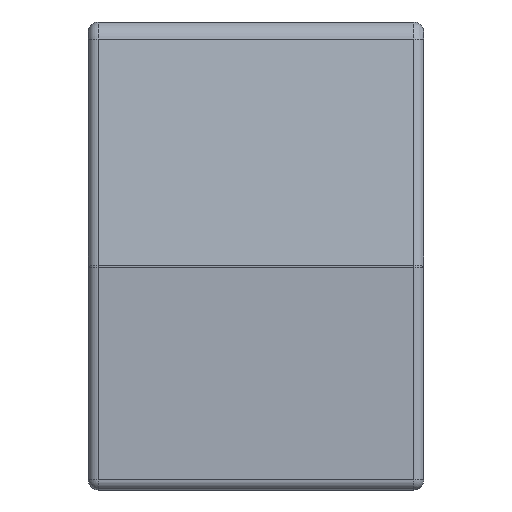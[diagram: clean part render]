
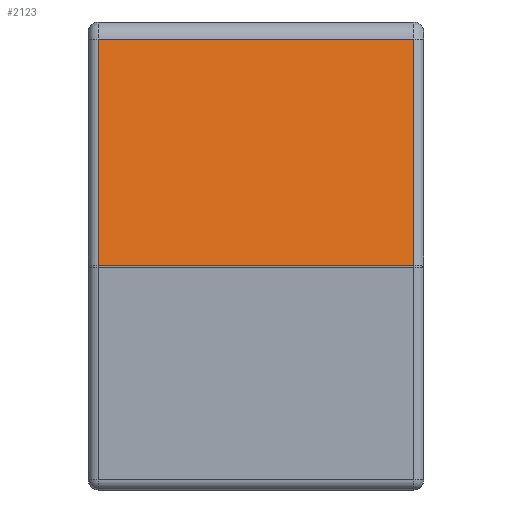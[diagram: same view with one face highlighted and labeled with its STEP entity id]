
A CAD part, left-side view. The second image highlights one B-rep face of the part: STEP entity #2123.
In plain terms, the highlighted planar face has unit normal (-0.986, 0, 0.164).
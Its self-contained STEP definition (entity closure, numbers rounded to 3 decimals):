
#611=DIRECTION('',(0.164,0.,0.986));
#612=VECTOR('',#611,11.277);
#613=CARTESIAN_POINT('',(-37.142,7.75,-6.959));
#614=LINE('',#613,#612);
#615=DIRECTION('',(0.,-1.,0.));
#616=VECTOR('',#615,15.5);
#617=CARTESIAN_POINT('',(-35.288,7.75,4.164));
#618=LINE('',#617,#616);
#619=DIRECTION('',(-0.164,0.,-0.986));
#620=VECTOR('',#619,11.277);
#621=CARTESIAN_POINT('',(-35.288,-7.75,4.164));
#622=LINE('',#621,#620);
#623=DIRECTION('',(0.,1.,0.));
#624=VECTOR('',#623,15.5);
#625=CARTESIAN_POINT('',(-37.142,-7.75,-6.959));
#626=LINE('',#625,#624);
#1143=CARTESIAN_POINT('',(-35.288,7.75,4.164));
#1144=VERTEX_POINT('',#1143);
#1147=CARTESIAN_POINT('',(-37.142,7.75,-6.959));
#1148=VERTEX_POINT('',#1147);
#1179=CARTESIAN_POINT('',(-35.288,-7.75,4.164));
#1180=VERTEX_POINT('',#1179);
#1181=CARTESIAN_POINT('',(-37.142,-7.75,-6.959));
#1182=VERTEX_POINT('',#1181);
#2109=CARTESIAN_POINT('',(-36.149,0.,-1.));
#2110=DIRECTION('',(-0.986,0.,0.164));
#2111=DIRECTION('',(0.164,0.,0.986));
#2112=AXIS2_PLACEMENT_3D('',#2109,#2110,#2111);
#2113=PLANE('',#2112);
#2115=ORIENTED_EDGE('',*,*,#2114,.T.);
#2117=ORIENTED_EDGE('',*,*,#2116,.T.);
#2118=ORIENTED_EDGE('',*,*,#2100,.T.);
#2120=ORIENTED_EDGE('',*,*,#2119,.T.);
#2121=EDGE_LOOP('',(#2115,#2117,#2118,#2120));
#2122=FACE_OUTER_BOUND('',#2121,.F.);
#2123=ADVANCED_FACE('',(#2122),#2113,.T.);
#2100=EDGE_CURVE('',#1180,#1182,#622,.T.);
#2114=EDGE_CURVE('',#1148,#1144,#614,.T.);
#2116=EDGE_CURVE('',#1144,#1180,#618,.T.);
#2119=EDGE_CURVE('',#1182,#1148,#626,.T.);
